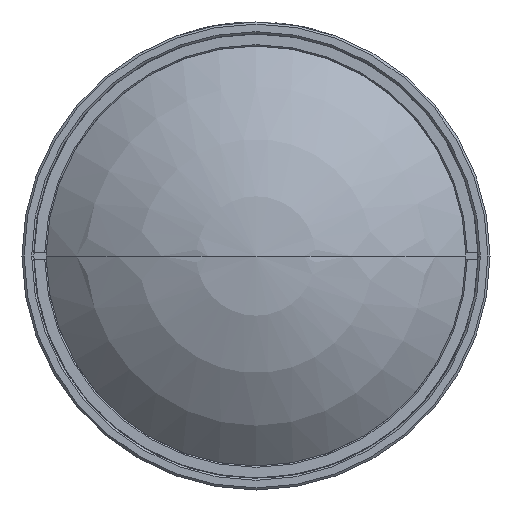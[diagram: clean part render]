
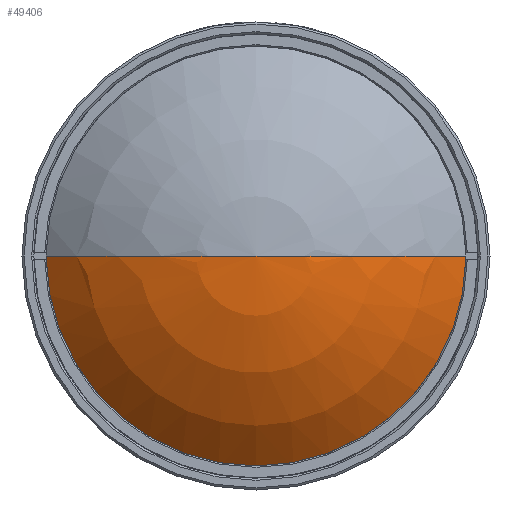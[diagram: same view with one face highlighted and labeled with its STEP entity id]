
A CAD part, left-side view. The second image highlights one B-rep face of the part: STEP entity #49406.
In plain terms, the highlighted spherical face has radius 42.287 mm.
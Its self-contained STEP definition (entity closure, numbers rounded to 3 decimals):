
#49297=CARTESIAN_POINT('',(-25.221,0.,0.));
#49298=DIRECTION('',(0.,0.,-1.));
#49299=DIRECTION('',(-0.695,-0.719,0.));
#49300=AXIS2_PLACEMENT_3D('',#49297,#49298,#49299);
#49302=CARTESIAN_POINT('',(-25.221,0.,0.));
#49303=DIRECTION('',(0.,0.,-1.));
#49304=DIRECTION('',(-1.,0.,0.));
#49305=AXIS2_PLACEMENT_3D('',#49302,#49303,#49304);
#49320=CARTESIAN_POINT('',(-54.615,0.,0.));
#49321=DIRECTION('',(-1.,0.,0.));
#49322=DIRECTION('',(0.,1.,0.));
#49323=AXIS2_PLACEMENT_3D('',#49320,#49321,#49322);
#49373=CARTESIAN_POINT('',(-54.615,-30.4,0.));
#49374=CARTESIAN_POINT('',(-67.508,0.,0.));
#49375=VERTEX_POINT('',#49373);
#49376=VERTEX_POINT('',#49374);
#49377=CARTESIAN_POINT('',(-54.615,30.4,0.));
#49378=VERTEX_POINT('',#49377);
#49393=CARTESIAN_POINT('',(-25.221,0.,0.));
#49394=DIRECTION('',(1.,0.,0.));
#49395=DIRECTION('',(0.,-1.,0.));
#49396=AXIS2_PLACEMENT_3D('',#49393,#49394,#49395);
#49397=SPHERICAL_SURFACE('',#49396,42.287);
#49399=ORIENTED_EDGE('',*,*,#49398,.F.);
#49401=ORIENTED_EDGE('',*,*,#49400,.F.);
#49403=ORIENTED_EDGE('',*,*,#49402,.F.);
#49404=EDGE_LOOP('',(#49399,#49401,#49403));
#49405=FACE_OUTER_BOUND('',#49404,.F.);
#49301=CIRCLE('',#49300,42.287);
#49306=CIRCLE('',#49305,42.287);
#49324=CIRCLE('',#49323,30.4);
#49398=EDGE_CURVE('',#49375,#49376,#49301,.T.);
#49400=EDGE_CURVE('',#49378,#49375,#49324,.T.);
#49402=EDGE_CURVE('',#49376,#49378,#49306,.T.);
#49406=ADVANCED_FACE('',(#49405),#49397,.T.);
